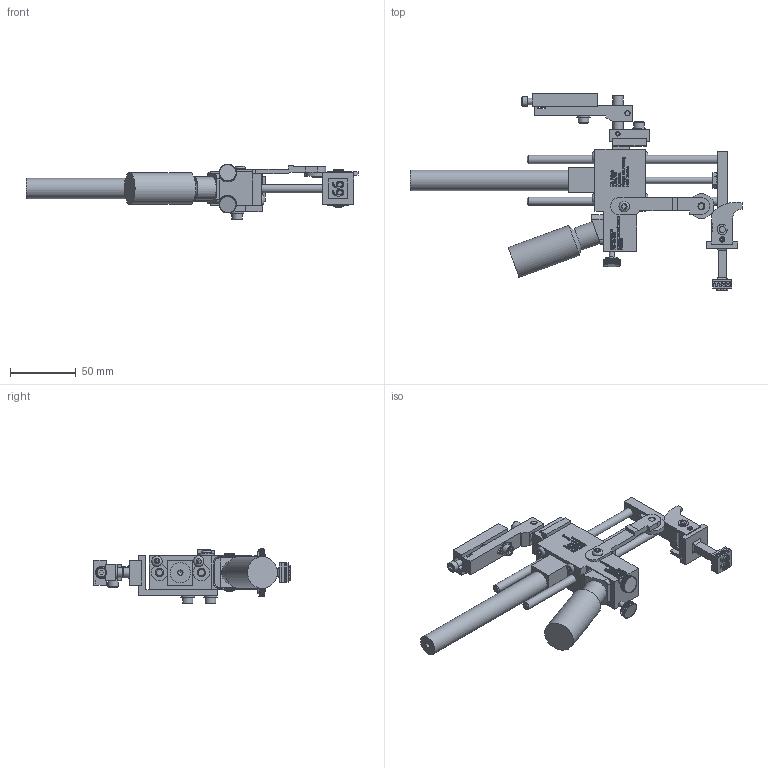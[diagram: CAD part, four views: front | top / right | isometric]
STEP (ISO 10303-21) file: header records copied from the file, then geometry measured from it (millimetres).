
FILE_DESCRIPTION((''),'2;1');
FILE_NAME('C:\Documents and Settings\Ron\My Documents\Inventor\Sprinter Drawing\Machines in Inventor\Model 66\Type\Ext Hd 1in\Brkt\90\Model 66 EH 1in type 90 DEG w brkt mod 2012.stp','2012-02-29T07:51:27',('Ron'),(''),'Autodesk Inventor 2011','Autodesk Inventor 2011','');
FILE_SCHEMA(('AUTOMOTIVE_DESIGN { 1 0 10303 214 1 1 1 1 }'));
Length unit declared in the file: inch
Products named in the file (43): Model 66 EH 1in type 90 DEG w brkt mod 2012; 66 Frame Body Assy Ext w brkt; 66 Frame Body; Hexagon Socket Button Head Cap Screw - Inch 8 - 32 x 1/4; Hexagon Socket Head Cap Screw - Inch No. 8 - 32 UNC - 1 1/2; 66 Linear Bearing; 66 Ink; 66 INK BOTTLE; 66 Ink Pad; 66-15-EH1 Whl Brk Arm; 8-32x0.25 Hexagon Socket Button Head Cap Screw ANSI/ASME B18.3; 44 Cam Wheel; 44 Wheel Retainer; 10 Ink Resevior Lock Screw; Model 66 Bracket; Model 66 RPB; rpb4; rpb3; rpb-1; rpb2; No. 10-24x0.88 Hexagon socket head cap screw ANSI/ASME B18.3; Type B - Plain Washer (Inch) No. 10 - narrow - Type B; 66 Machine Mounting Pivot Bracket; Pin - Hardened Ground Machine Dowel (Inch) 1/8 x 3/8; Rod Carrier standard 90 deg ext; 66 Rod Carrier; Type A - Hexagon Socket Set Screw - Cup Point - Inch 8-32 UNC x 0.32; 66 PIVOT SHAFT; 66 PIVOT SHAFT LOCKING RING; 23 66 invert block; AS 1112 (4)  - Metric M6; 66 Spring; 19 Rod Carrier Set Screws; 44 & up Removable Marking Head Securing Post; Hexagon Socket Set Screw - Flat Point - Inch 6-32 UNC x 0.45; Model 66, EH1 std .25 x 6; 66 EH1 66 STAMP HEAD; 66 EH-1 marking head plate; 66-28; Part # 28 - 66 stamp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
Assembly tree (60 placements, depth 5):
  Model 66 EH 1in type 90 DEG w brkt mod 2012
    66 Frame Body Assy Ext w brkt
      66 Frame Body
      Hexagon Socket Button Head Cap Screw - Inch 8 - 32 x 1/4  x4
      Hexagon Socket Head Cap Screw - Inch No. 8 - 32 UNC - 1 1/2  x2
      66 Linear Bearing  x2
      66 Ink
      66 INK BOTTLE
      66 Ink Pad
      66-15-EH1 Whl Brk Arm
      8-32x0.25 Hexagon Socket Button Head Cap Screw ANSI/ASME B18.3
      44 Cam Wheel
      44 Wheel Retainer
      10 Ink Resevior Lock Screw  x2
      Model 66 Bracket
        Model 66 RPB
          rpb4
          rpb3
          rpb-1
          rpb2
          No. 10-24x0.88 Hexagon socket head cap screw ANSI/ASME B18.3  x5
          Type B - Plain Washer (Inch) No. 10 - narrow - Type B  x4
          66 Machine Mounting Pivot Bracket
          Pin - Hardened Ground Machine Dowel (Inch) 1/8 x 3/8  x2
    Rod Carrier standard 90 deg ext
      66 Rod Carrier
      Type A - Hexagon Socket Set Screw - Cup Point - Inch 8-32 UNC x 0.32
      66 PIVOT SHAFT
      66 PIVOT SHAFT LOCKING RING  x2
      23 66 invert block
      AS 1112 (4)  - Metric M6
      66 Spring
      19 Rod Carrier Set Screws  x2
      44 & up Removable Marking Head Securing Post
      Hexagon Socket Set Screw - Flat Point - Inch 6-32 UNC x 0.45
      Model 66, EH1 std .25 x 6  x2
      66 EH1 66 STAMP HEAD
        44 & up Removable Marking Head Securing Post
        66 EH-1 marking head plate
        66-28
        Part # 28 - 66 stamp
      Hexagon Socket Set Screw - Flat Point - Inch 8-32 UNC x 0.32
    EH1 90 deg std
    10-32 PORTS DECAL
Bounding box: 252.55 x 149.35 x 42.07 mm (x, y, z)
Volume: 176815.6 mm3; surface area: 91584.7 mm2
Topology: 428 solids, 428 shells, 6378 faces, 15637 edges, 9684 vertices
Faces by surface type: plane 4398, bspline 1301, cylinder 572, cone 84, torus 23
Full cylindrical faces by diameter (mm): 1.575 x1, 2.54 x2, 2.642 x3, 3.175 x4, 3.2 x1, 3.302 x12, 3.505 x1, 3.683 x2, 3.962 x12, 4.064 x2, 4.166 x11, 4.318 x2, 4.699 x3, 4.75 x3, 4.775 x2, 4.826 x8, 4.864 x2, 4.917 x1, 5.08 x2, 5.156 x7, 5.182 x1, 5.359 x1, 5.556 x1, 6.325 x2, 6.35 x7, 6.426 x1, 6.604 x1, 6.858 x2, 7.353 x4, 7.62 x2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
Entity records: 152377 total; most frequent: CARTESIAN_POINT 45307, ORIENTED_EDGE 23666, DIRECTION 17054, EDGE_CURVE 11833, VECTOR 8398, LINE 8398, VERTEX_POINT 7589, EDGE_LOOP 5280
